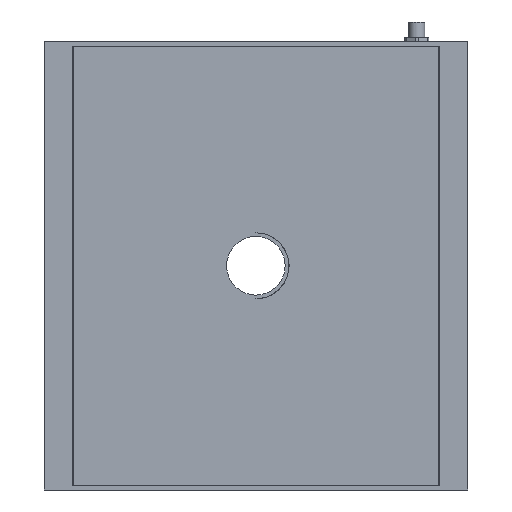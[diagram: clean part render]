
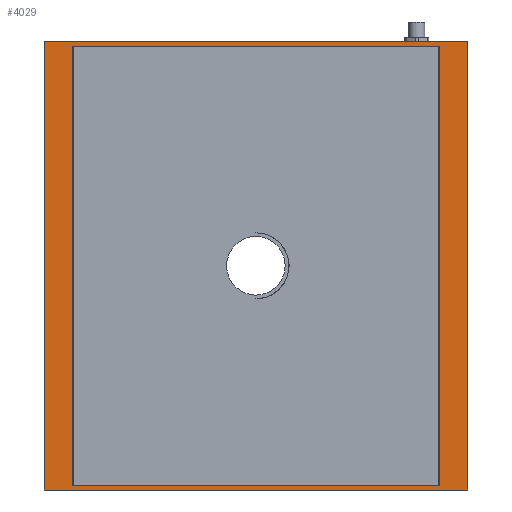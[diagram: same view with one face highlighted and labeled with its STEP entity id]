
A CAD part, front view. The second image highlights one B-rep face of the part: STEP entity #4029.
In plain terms, the highlighted planar face has unit normal (0, -1, 0).
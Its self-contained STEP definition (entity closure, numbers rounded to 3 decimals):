
#4022 = ORIENTED_EDGE ( 'NONE', *, *, #4023, .T. ) ;
#4023 = EDGE_CURVE ( 'NONE', #4090, #4032, #12488, .T. ) ;
#4024 = EDGE_LOOP ( 'NONE', ( #4025, #4146, #4149, #4092 ) ) ;
#4025 = ORIENTED_EDGE ( 'NONE', *, *, #4026, .F. ) ;
#4026 = EDGE_CURVE ( 'NONE', #4027, #4145, #12601, .T. ) ;
#4027 = VERTEX_POINT ( 'NONE', #12623 ) ;
#4029 = ADVANCED_FACE ( 'NONE', ( #12622, #12621 ), #12499, .T. ) ;
#4030 = ORIENTED_EDGE ( 'NONE', *, *, #4031, .T. ) ;
#4031 = EDGE_CURVE ( 'NONE', #4032, #4033, #12593, .T. ) ;
#4032 = VERTEX_POINT ( 'NONE', #12587 ) ;
#4033 = VERTEX_POINT ( 'NONE', #12585 ) ;
#4034 = ORIENTED_EDGE ( 'NONE', *, *, #4035, .T. ) ;
#4035 = EDGE_CURVE ( 'NONE', #4033, #4036, #12583, .T. ) ;
#4036 = VERTEX_POINT ( 'NONE', #12530 ) ;
#4043 = EDGE_LOOP ( 'NONE', ( #4030, #4034, #4088, #4022 ) ) ;
#4088 = ORIENTED_EDGE ( 'NONE', *, *, #4089, .T. ) ;
#4089 = EDGE_CURVE ( 'NONE', #4036, #4090, #12721, .T. ) ;
#4090 = VERTEX_POINT ( 'NONE', #12804 ) ;
#4091 = EDGE_CURVE ( 'NONE', #4150, #4148, #12803, .T. ) ;
#4092 = ORIENTED_EDGE ( 'NONE', *, *, #4093, .F. ) ;
#4093 = EDGE_CURVE ( 'NONE', #4145, #4150, #12798, .T. ) ;
#4145 = VERTEX_POINT ( 'NONE', #12887 ) ;
#4146 = ORIENTED_EDGE ( 'NONE', *, *, #4147, .F. ) ;
#4147 = EDGE_CURVE ( 'NONE', #4148, #4027, #12885, .T. ) ;
#4148 = VERTEX_POINT ( 'NONE', #12880 ) ;
#4149 = ORIENTED_EDGE ( 'NONE', *, *, #4091, .F. ) ;
#4150 = VERTEX_POINT ( 'NONE', #12879 ) ;
#12488 = LINE ( 'NONE', #12604, #12603 ) ;
#12497 = CARTESIAN_POINT ( 'NONE',  ( 5.408, -9.655, -300. ) ) ;
#12498 = AXIS2_PLACEMENT_3D ( 'NONE', #12497, #12595, #12594 ) ;
#12499 = PLANE ( 'NONE',  #12498 ) ;
#12530 = CARTESIAN_POINT ( 'NONE',  ( 4.908, -9.655, 0. ) ) ;
#12531 = DIRECTION ( 'NONE',  ( 0., 0., 1. ) ) ;
#12532 = VECTOR ( 'NONE', #12531, 1000. ) ;
#12533 = CARTESIAN_POINT ( 'NONE',  ( 4.908, -9.655, -300. ) ) ;
#12583 = LINE ( 'NONE', #12533, #12532 ) ;
#12585 = CARTESIAN_POINT ( 'NONE',  ( 4.908, -9.655, -300. ) ) ;
#12587 = CARTESIAN_POINT ( 'NONE',  ( 255.408, -9.655, -300. ) ) ;
#12589 = DIRECTION ( 'NONE',  ( -1., 0., 0. ) ) ;
#12590 = VECTOR ( 'NONE', #12589, 1000. ) ;
#12592 = CARTESIAN_POINT ( 'NONE',  ( -14.592, -9.655, -300. ) ) ;
#12593 = LINE ( 'NONE', #12592, #12590 ) ;
#12594 = DIRECTION ( 'NONE',  ( 1., 0., 0. ) ) ;
#12595 = DIRECTION ( 'NONE',  ( 0., -1., 0. ) ) ;
#12599 = VECTOR ( 'NONE', #12624, 1000. ) ;
#12600 = CARTESIAN_POINT ( 'NONE',  ( -14.592, -9.655, -300. ) ) ;
#12601 = LINE ( 'NONE', #12600, #12599 ) ;
#12602 = DIRECTION ( 'NONE',  ( 0., 0., -1. ) ) ;
#12603 = VECTOR ( 'NONE', #12602, 1000. ) ;
#12604 = CARTESIAN_POINT ( 'NONE',  ( 255.408, -9.655, -300. ) ) ;
#12621 = FACE_OUTER_BOUND ( 'NONE', #4024, .T. ) ;
#12622 = FACE_BOUND ( 'NONE', #4043, .T. ) ;
#12623 = CARTESIAN_POINT ( 'NONE',  ( -14.592, -9.655, -303. ) ) ;
#12624 = DIRECTION ( 'NONE',  ( 0., 0., 1. ) ) ;
#12701 = DIRECTION ( 'NONE',  ( 1., 0., 0. ) ) ;
#12702 = VECTOR ( 'NONE', #12701, 1000. ) ;
#12721 = LINE ( 'NONE', #12807, #12806 ) ;
#12797 = CARTESIAN_POINT ( 'NONE',  ( -14.592, -9.655, 3. ) ) ;
#12798 = LINE ( 'NONE', #12797, #12702 ) ;
#12800 = DIRECTION ( 'NONE',  ( 0., 0., -1. ) ) ;
#12801 = VECTOR ( 'NONE', #12800, 1000. ) ;
#12802 = CARTESIAN_POINT ( 'NONE',  ( 274.908, -9.655, 3. ) ) ;
#12803 = LINE ( 'NONE', #12802, #12801 ) ;
#12804 = CARTESIAN_POINT ( 'NONE',  ( 255.408, -9.655, 0. ) ) ;
#12805 = DIRECTION ( 'NONE',  ( 1., 0., 0. ) ) ;
#12806 = VECTOR ( 'NONE', #12805, 1000. ) ;
#12807 = CARTESIAN_POINT ( 'NONE',  ( -14.592, -9.655, 0. ) ) ;
#12879 = CARTESIAN_POINT ( 'NONE',  ( 274.908, -9.655, 3. ) ) ;
#12880 = CARTESIAN_POINT ( 'NONE',  ( 274.908, -9.655, -303. ) ) ;
#12882 = DIRECTION ( 'NONE',  ( -1., 0., 0. ) ) ;
#12883 = VECTOR ( 'NONE', #12882, 1000. ) ;
#12884 = CARTESIAN_POINT ( 'NONE',  ( -14.592, -9.655, -303. ) ) ;
#12885 = LINE ( 'NONE', #12884, #12883 ) ;
#12887 = CARTESIAN_POINT ( 'NONE',  ( -14.592, -9.655, 3. ) ) ;
